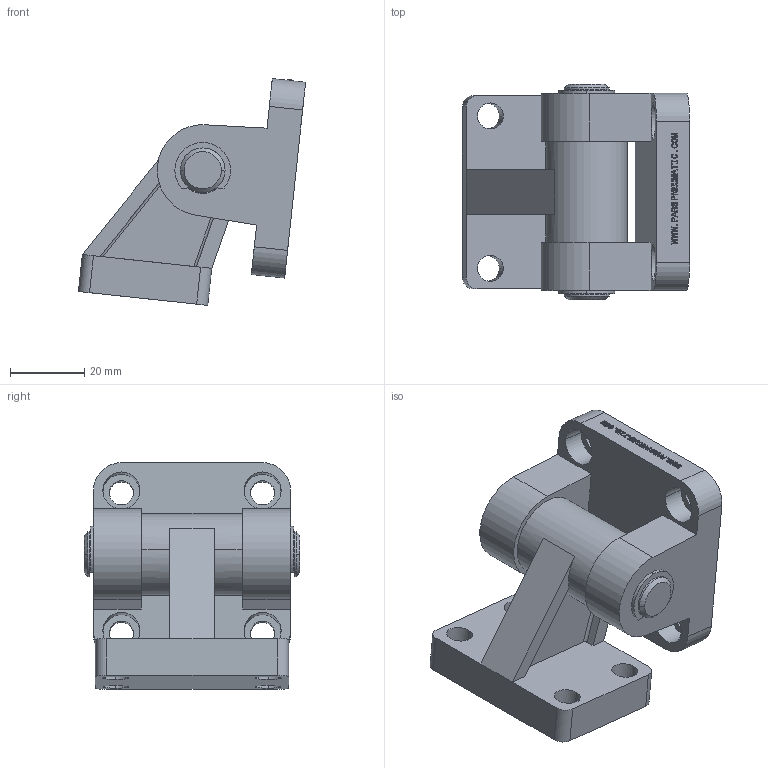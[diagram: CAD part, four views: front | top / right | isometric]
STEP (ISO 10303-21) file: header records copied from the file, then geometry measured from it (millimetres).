
FILE_DESCRIPTION(('CATIA V5 STEP Exchange'),'2;1');
FILE_NAME('D:\stp file for catalog\BAST-CAS\CAS 40.stp','2018-06-13T06:17:20+00:00',('none'),('none'),'CATIA Version 5-6 Release 2016','CATIA V5 STEP AP203','none');
FILE_SCHEMA(('CONFIG_CONTROL_DESIGN'));
Length unit declared in the file: millimetre
Products named in the file (1): PNC-CAS40
Assembly tree (5 placements, depth 2):
  PNC-CAS40
    #57
    #1454
    #1995
    #2749
    #16977
Bounding box: 61.13 x 58 x 61 mm (x, y, z)
Volume: 66290.1 mm3; surface area: 26693.5 mm2
Topology: 5 solids, 5 shells, 584 faces, 1610 edges, 1072 vertices
Faces by surface type: plane 490, cylinder 86, cone 8
Entity records: 17710 total; most frequent: ORIENTED_EDGE 3220, CARTESIAN_POINT 3193, DIRECTION 2508, EDGE_CURVE 1610, VECTOR 1414, LINE 1414, VERTEX_POINT 1072, EDGE_LOOP 642
